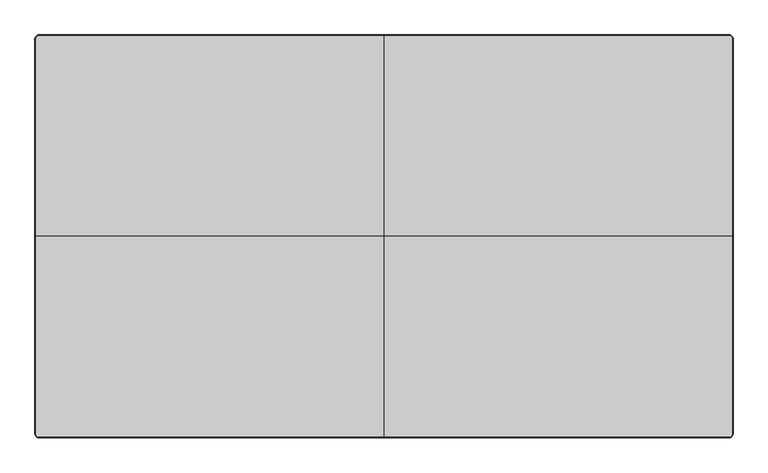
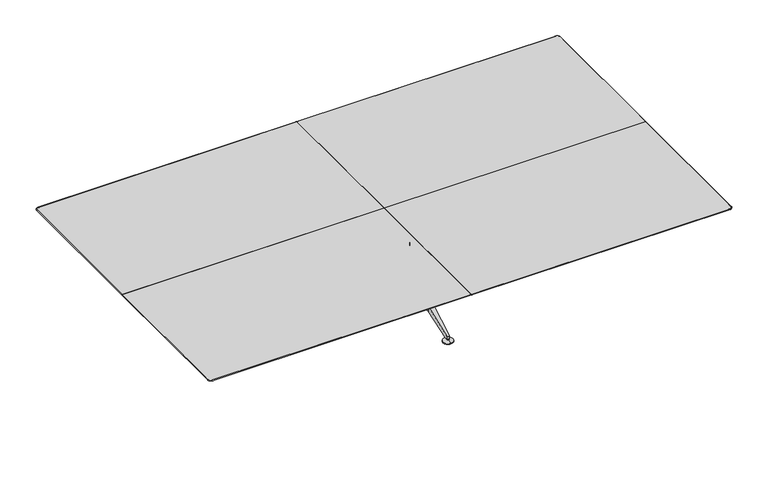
"""IFC4 building model written with IfcOpenShell, lengths in millimetres: furniture geometry, Furniture_Wilkhahn_620-46_Logon Table-Rectangle : Logon 620/46_5200L x 3000W x 730H."""

from ifc_helpers import new_model, si_unit, point, frame, frame_2d, origin, place, context, project, spatial, polyline, circle_curve, ellipse_curve, trimmed, segment, composite_curve, outline, extrude, source, transform, mapped, element, save
from ifc_brep_helpers import plane_surface, cylinder_surface, revolved_surface, advanced_brep


def furniture_d52dea78(model_context):
    return source(origin(), model_context, "Body", "SolidModel", [
        advanced_brep(
        [(0.0, 425.4267924, 0.0), (0.0, 375.4267924, 0.0), (0.0, 475.4267924, 0.0), (0.0, 375.4267924, 6.0), (0.0, 475.4267924, 6.0), (0.0, 412.9511544, 17.0), (0.0, 437.9024304, 17.0), (0.0, 412.9511544, 27.0), (0.0, 437.9024304, 27.0), (0.0, 425.4267924, 27.0)],
        [
            (0, 1),
            (1, 2, circle_curve(frame((0.0, 425.4267924, 0.0), z_axis=(0.0, 0.0, -1.0), x_axis=(0.0, -1.0000000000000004, 0.0)), 50.0)),
            (2, 0),
            (2, 1, circle_curve(frame((0.0, 425.4267924, 0.0), z_axis=(0.0, 0.0, -1.0), x_axis=(0.0, -1.0000000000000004, 0.0)), 50.0)),
            (1, 3),
            (3, 4, circle_curve(frame((0.0, 425.4267924, 6.0), z_axis=(0.0, 0.0, -1.0), x_axis=(0.0, -1.0000000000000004, 0.0)), 50.0)),
            (4, 2),
            (4, 3, circle_curve(frame((0.0, 425.4267924, 6.0), z_axis=(0.0, 0.0, -1.0), x_axis=(0.0, -1.0000000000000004, 0.0)), 50.0)),
            (3, 5),
            (5, 6, circle_curve(frame((0.0, 425.4267924, 17.0), z_axis=(0.0, 0.0, -1.0), x_axis=(0.0, -1.0000000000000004, 0.0)), 12.475638)),
            (6, 4),
            (6, 5, circle_curve(frame((0.0, 425.4267924, 17.0), z_axis=(0.0, 0.0, -1.0), x_axis=(0.0, -1.0000000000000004, 0.0)), 12.475638)),
            (5, 7),
            (7, 8, circle_curve(frame((0.0, 425.4267924, 27.0), z_axis=(0.0, 0.0, -1.0), x_axis=(0.0, -1.0000000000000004, 0.0)), 12.475638)),
            (8, 6),
            (8, 7, circle_curve(frame((0.0, 425.4267924, 27.0), z_axis=(0.0, 0.0, -1.0), x_axis=(0.0, -1.0000000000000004, 0.0)), 12.475638)),
            (7, 9),
            (9, 8),
        ],
        [
            plane_surface(frame((0.0, 425.4267924, 0.0), z_axis=(0.0, 0.0, -1.0), x_axis=(0.0, -1.0, 0.0))),
            cylinder_surface(frame((0.0, 425.4267924, 27.0), z_axis=(0.0, 0.0, -1.0), x_axis=(0.0, -1.0000000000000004, 0.0)), 50.0),
            revolved_surface(polyline([(0.0, 412.9511544, 17.0), (0.0, 375.4267924, 6.0)]), (0.0, 425.4267924, 27.0), (0.0, 0.0, -1.0)),
            cylinder_surface(frame((0.0, 425.4267924, 27.0), z_axis=(0.0, 0.0, -1.0), x_axis=(0.0, -1.0000000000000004, 0.0)), 12.475638),
            plane_surface(frame((0.0, 425.4267924, 27.0), z_axis=(0.0, 0.0, 1.0), x_axis=(0.0, -1.0, 0.0))),
        ],
        [
            (0, [[1, 2, 3]]),
            (0, [[-3, 4, -1]]),
            (1, [[-2, 5, 6, 7]]),
            (1, [[-4, -7, 8, -5]]),
            (2, [[-6, 9, 10, 11]]),
            (2, [[-8, -11, 12, -9]]),
            (3, [[-10, 13, 14, 15]]),
            (3, [[-12, -15, 16, -13]]),
            (4, [[-14, 17, 18]]),
            (4, [[-16, -18, -17]]),
        ],
    ),
        advanced_brep(
        [(0.0, 1076.4755164, 0.0), (0.0, 1176.4755164, 0.0), (0.0, 1126.4755164, 0.0), (0.0, 1076.4755164, 6.0), (0.0, 1176.4755164, 6.0), (0.0, 1113.9998784, 17.0), (0.0, 1138.9511544, 17.0), (0.0, 1113.9998784, 27.0), (0.0, 1138.9511544, 27.0), (0.0, 1126.4755164, 27.0)],
        [
            (0, 1, circle_curve(frame((0.0, 1126.4755164, 0.0), z_axis=(0.0, 0.0, -1.0), x_axis=(0.0, 1.0000000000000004, 0.0)), 50.0)),
            (1, 2),
            (2, 0),
            (1, 0, circle_curve(frame((0.0, 1126.4755164, 0.0), z_axis=(0.0, 0.0, -1.0), x_axis=(0.0, 1.0000000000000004, 0.0)), 50.0)),
            (3, 4, circle_curve(frame((0.0, 1126.4755164, 6.0), z_axis=(0.0, 0.0, -1.0), x_axis=(0.0, 1.0000000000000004, 0.0)), 50.0)),
            (4, 1),
            (0, 3),
            (4, 3, circle_curve(frame((0.0, 1126.4755164, 6.0), z_axis=(0.0, 0.0, -1.0), x_axis=(0.0, 1.0000000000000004, 0.0)), 50.0)),
            (5, 6, circle_curve(frame((0.0, 1126.4755164, 17.0), z_axis=(0.0, 0.0, -1.0), x_axis=(0.0, 1.0000000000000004, 0.0)), 12.475638)),
            (6, 4),
            (3, 5),
            (6, 5, circle_curve(frame((0.0, 1126.4755164, 17.0), z_axis=(0.0, 0.0, -1.0), x_axis=(0.0, 1.0000000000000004, 0.0)), 12.475638)),
            (7, 8, circle_curve(frame((0.0, 1126.4755164, 27.0), z_axis=(0.0, 0.0, -1.0), x_axis=(0.0, 1.0000000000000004, 0.0)), 12.475638)),
            (8, 6),
            (5, 7),
            (8, 7, circle_curve(frame((0.0, 1126.4755164, 27.0), z_axis=(0.0, 0.0, -1.0), x_axis=(0.0, 1.0000000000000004, 0.0)), 12.475638)),
            (9, 8),
            (7, 9),
        ],
        [
            plane_surface(frame((0.0, 1126.4755164, 0.0), z_axis=(0.0, 0.0, -1.0), x_axis=(0.0, 1.0, 0.0))),
            cylinder_surface(frame((0.0, 1126.4755164, 27.0), z_axis=(0.0, 0.0, 1.0), x_axis=(0.0, 1.0000000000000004, 0.0)), 50.0),
            revolved_surface(polyline([(0.0, 1176.4755164, 6.0), (0.0, 1138.9511544, 17.0)]), (0.0, 1126.4755164, 27.0), (0.0, 0.0, 1.0)),
            cylinder_surface(frame((0.0, 1126.4755164, 27.0), z_axis=(0.0, 0.0, 1.0), x_axis=(0.0, 1.0000000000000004, 0.0)), 12.475638),
            plane_surface(frame((0.0, 1126.4755164, 27.0), z_axis=(0.0, 0.0, 1.0), x_axis=(0.0, 1.0, 0.0))),
        ],
        [
            (0, [[1, 2, 3]]),
            (0, [[4, -3, -2]]),
            (1, [[5, 6, -1, 7]]),
            (1, [[8, -7, -4, -6]]),
            (2, [[9, 10, -5, 11]]),
            (2, [[12, -11, -8, -10]]),
            (3, [[13, 14, -9, 15]]),
            (3, [[16, -15, -12, -14]]),
            (4, [[17, -13, 18]]),
            (4, [[-18, -16, -17]]),
        ],
    ),
        extrude(outline(composite_curve([segment(polyline([(25.0, 722.9511544), (51.7160071, 559.8913867)]), True, "CONTINUOUS"), segment(trimmed(circle_curve(frame_2d((39.8739001, 557.9511544)), 12.0), [point((51.7160071, 559.8913867))], [point((39.8739001, 545.9511544))], False, "CARTESIAN"), True, "CONTINUOUS"), segment(polyline([(39.8739001, 545.9511544), (-39.8739001, 545.9511544)]), True, "CONTINUOUS"), segment(trimmed(circle_curve(frame_2d((-39.8739001, 557.9511544)), 12.0), [point((-39.8739001, 545.9511544))], [point((-51.7160071, 559.8913867))], False, "CARTESIAN"), True, "CONTINUOUS"), segment(polyline([(-51.7160071, 559.8913867), (-25.0, 722.9511544), (-25.0, 828.9511544), (-51.7160071, 992.0109222)]), True, "CONTINUOUS"), segment(trimmed(circle_curve(frame_2d((-39.8739001, 993.9511544)), 12.0), [point((-51.7160071, 992.0109222))], [point((-39.8739001, 1005.9511544))], False, "CARTESIAN"), True, "CONTINUOUS"), segment(polyline([(-39.8739001, 1005.9511544), (39.8739001, 1005.9511544)]), True, "CONTINUOUS"), segment(trimmed(circle_curve(frame_2d((39.8739001, 993.9511544)), 12.0), [point((39.8739001, 1005.9511544))], [point((51.7160071, 992.0109222))], False, "CARTESIAN"), True, "CONTINUOUS"), segment(polyline([(51.7160071, 992.0109222), (25.0, 828.9511544), (25.0, 722.9511544)]), True, "CONTINUOUS")], self_intersect=False)), frame((0.0, 0.0, 675.0), z_axis=(0.0, 0.0, 1.0), x_axis=(1.0, 0.0, 0.0)), (0.0, 0.0, 1.0), 29.0),
        advanced_brep(
        [(-25.0, 828.9511544, 140.0), (-25.0, 722.9511544, 140.0), (-25.0, 722.9511544, 195.0), (-25.0, 828.9511544, 195.0), (25.0, 828.9511544, 195.0), (25.0, 722.9511544, 195.0), (25.0, 722.9511544, 140.0), (25.0, 828.9511544, 140.0), (13.4930419, 1113.9998784, 27.0), (-13.4930419, 1113.9998784, 27.0), (-12.9894205, 1126.4755164, 27.0), (0.0, 1138.9511544, 27.0), (12.9894205, 1126.4755164, 27.0), (12.9894205, 1126.4755164, 56.4159205), (0.0, 1138.9511544, 50.6048844), (-12.9894205, 1126.4755164, 56.4159205), (12.9894205, 425.4267924, 56.4159205), (12.9894205, 425.4267924, 27.0), (13.4930419, 437.9024304, 27.0), (-12.9894205, 425.4267924, 27.0), (-12.9894205, 425.4267924, 56.4159205), (-13.4930419, 437.9024304, 27.0), (0.0, 412.9511544, 27.0), (0.0, 412.9511544, 50.6048844)],
        [
            (0, 1),
            (1, 2),
            (2, 3),
            (3, 0),
            (4, 5),
            (5, 6),
            (6, 7),
            (7, 4),
            (8, 9),
            (9, 10),
            (10, 11, circle_curve(frame((0.0, 1125.9511544, 27.0), z_axis=(0.0, 0.0, -1.0), x_axis=(1.0000000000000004, 0.0, 0.0)), 13.0)),
            (11, 12, circle_curve(frame((0.0, 1125.9511544, 27.0), z_axis=(0.0, 0.0, -1.0), x_axis=(1.0000000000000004, 0.0, 0.0)), 13.0)),
            (12, 8),
            (3, 4),
            (4, 13),
            (13, 14, ellipse_curve(frame((0.0, 1125.9511544, 56.6601634), z_axis=(0.0, 0.42223330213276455, 0.9064871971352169), x_axis=(0.0, 0.9064871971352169, -0.42223330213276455)), 14.341074, 13.0)),
            (14, 15, ellipse_curve(frame((0.0, 1125.9511544, 56.6601634), z_axis=(0.0, 0.42223330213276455, 0.9064871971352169), x_axis=(0.0, 0.9064871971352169, -0.42223330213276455)), 14.341074, 13.0)),
            (15, 3),
            (7, 0),
            (0, 9),
            (8, 7),
            (16, 17),
            (17, 18),
            (18, 6),
            (5, 16),
            (19, 20),
            (20, 2),
            (1, 21),
            (21, 19),
            (2, 5),
            (6, 1),
            (19, 22, circle_curve(frame((0.0, 425.9511544, 27.0), z_axis=(0.0, 0.0, 1.0), x_axis=(1.0000000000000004, 0.0, 0.0)), 13.0)),
            (22, 17, circle_curve(frame((0.0, 425.9511544, 27.0), z_axis=(0.0, 0.0, 1.0), x_axis=(1.0000000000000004, 0.0, 0.0)), 13.0)),
            (16, 23, ellipse_curve(frame((0.0, 425.9511544, 56.6601634), z_axis=(0.0, 0.42223330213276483, -0.906487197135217), x_axis=(0.0, -0.906487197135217, -0.42223330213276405)), 14.341074, 13.0)),
            (23, 20, ellipse_curve(frame((0.0, 425.9511544, 56.6601634), z_axis=(0.0, 0.42223330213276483, -0.906487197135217), x_axis=(0.0, -0.906487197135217, -0.42223330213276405)), 14.341074, 13.0)),
            (15, 10),
            (13, 12),
            (21, 18),
        ],
        [
            plane_surface(frame((-25.0, 1122.2046146, 27.0), z_axis=(-1.0, 0.0, 0.0), x_axis=(0.0, -1.0, 0.0))),
            plane_surface(frame((25.0, 1122.2046146, 27.0), z_axis=(1.0, 0.0, 0.0), x_axis=(0.0, 1.0, 0.0))),
            plane_surface(frame((25.0, 1113.9998784, 27.0), z_axis=(0.0, 0.0, -1.0), x_axis=(-1.0, 0.0, 0.0))),
            plane_surface(frame((25.0, 1138.9511544, 50.6048844), z_axis=(0.0, 0.42223330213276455, 0.9064871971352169), x_axis=(-1.0, 0.0, 0.0))),
            plane_surface(frame((25.0, 828.9511544, 140.0), z_axis=(0.0, -0.36852267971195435, -0.9296187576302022), x_axis=(-1.0, 0.0, 0.0))),
            plane_surface(frame((25.0, 722.9511544, 195.0), z_axis=(0.9991861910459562, -0.04033553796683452, 0.0), x_axis=(0.0, 0.0, -1.0))),
            plane_surface(frame((-12.9894205, 425.4267924, 195.0), z_axis=(-0.9991861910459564, -0.0403355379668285, 0.0), x_axis=(0.0, 0.0, -1.0))),
            plane_surface(frame((25.0, 828.9511544, 195.0), z_axis=(0.0, 0.0, 1.0), x_axis=(-1.0, 0.0, 0.0))),
            plane_surface(frame((25.0, 722.9511544, 140.0), z_axis=(0.0, 0.0, -1.0), x_axis=(-1.0, 0.0, 0.0))),
            cylinder_surface(frame((0.0, 425.9511544, 0.0), z_axis=(0.0, 0.0, -1.0), x_axis=(1.0000000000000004, 0.0, 0.0)), 13.0),
            plane_surface(frame((-25.0, 828.9511544, 195.0), z_axis=(-0.9991861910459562, 0.040335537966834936, 0.0), x_axis=(0.0, 0.0, -1.0))),
            cylinder_surface(frame((0.0, 1125.9511544, -14.190167), z_axis=(0.0, 0.0, -1.0), x_axis=(1.0000000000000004, 0.0, 0.0)), 13.0),
            plane_surface(frame((12.9894205, 1126.4755164, 195.0), z_axis=(0.9991861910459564, 0.04033553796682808, 0.0), x_axis=(0.0, 0.0, -1.0))),
            plane_surface(frame((25.0, 722.9511544, 195.0), z_axis=(0.0, -0.4222333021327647, 0.9064871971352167), x_axis=(-1.0, 0.0, 0.0))),
            plane_surface(frame((25.0, 412.9511544, 27.0), z_axis=(0.0, 0.0, -1.0), x_axis=(-1.0, 0.0, 0.0))),
            plane_surface(frame((25.0, 437.9024304, 27.0), z_axis=(0.0, 0.36852267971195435, -0.929618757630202), x_axis=(-1.0, 0.0, 0.0))),
        ],
        [
            (0, [[1, 2, 3, 4]]),
            (1, [[5, 6, 7, 8]]),
            (2, [[9, 10, 11, 12, 13]]),
            (3, [[14, 15, 16, 17, 18]]),
            (4, [[19, 20, -9, 21]]),
            (5, [[22, 23, 24, -6, 25]]),
            (6, [[26, 27, -2, 28, 29]]),
            (7, [[-3, 30, -5, -14]]),
            (8, [[-1, -19, -7, 31]]),
            (9, [[-26, 32, 33, -22, 34, 35]]),
            (10, [[36, -10, -20, -4, -18]]),
            (11, [[-36, -17, -16, 37, -12, -11]]),
            (12, [[-37, -15, -8, -21, -13]]),
            (13, [[-30, -27, -35, -34, -25]]),
            (14, [[38, -23, -33, -32, -29]]),
            (15, [[-31, -24, -38, -28]]),
        ],
    ),
        extrude(outline(composite_curve([segment(trimmed(circle_curve(frame_2d((0.0, 722.9511544)), 20.0), [point((-20.0, 722.9511544))], [point((20.0, 722.9511544))], False, "CARTESIAN"), True, "CONTINUOUS"), segment(trimmed(circle_curve(frame_2d((0.0, 722.9511544)), 20.0), [point((20.0, 722.9511544))], [point((-20.0, 722.9511544))], False, "CARTESIAN"), True, "CONTINUOUS")], self_intersect=False)), frame((0.0, 0.0, 140.0), z_axis=(0.0, 0.0, 1.0), x_axis=(1.0, 0.0, 0.0)), (0.0, 0.0, 1.0), 535.0),
        extrude(outline(composite_curve([segment(trimmed(circle_curve(frame_2d((0.0, 828.9511544)), 20.0), [point((-20.0, 828.9511544))], [point((20.0, 828.9511544))], False, "CARTESIAN"), True, "CONTINUOUS"), segment(trimmed(circle_curve(frame_2d((0.0, 828.9511544)), 20.0), [point((20.0, 828.9511544))], [point((-20.0, 828.9511544))], False, "CARTESIAN"), True, "CONTINUOUS")], self_intersect=False)), frame((0.0, 0.0, 140.0), z_axis=(0.0, 0.0, 1.0), x_axis=(1.0, 0.0, 0.0)), (0.0, 0.0, 1.0), 535.0),
        advanced_brep(
        [(0.0, -373.5244836, 0.0), (0.0, -423.5244836, 0.0), (0.0, -323.5244836, 0.0), (0.0, -423.5244836, 6.0), (0.0, -323.5244836, 6.0), (0.0, -386.0001216, 17.0), (0.0, -361.0488456, 17.0), (0.0, -386.0001216, 27.0), (0.0, -361.0488456, 27.0), (0.0, -373.5244836, 27.0)],
        [
            (0, 1),
            (1, 2, circle_curve(frame((0.0, -373.5244836, 0.0), z_axis=(0.0, 0.0, -1.0), x_axis=(0.0, 1.0000000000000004, 0.0)), 50.0)),
            (2, 0),
            (2, 1, circle_curve(frame((0.0, -373.5244836, 0.0), z_axis=(0.0, 0.0, -1.0), x_axis=(0.0, 1.0000000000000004, 0.0)), 50.0)),
            (1, 3),
            (3, 4, circle_curve(frame((0.0, -373.5244836, 6.0), z_axis=(0.0, 0.0, -1.0), x_axis=(0.0, 1.0000000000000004, 0.0)), 50.0)),
            (4, 2),
            (4, 3, circle_curve(frame((0.0, -373.5244836, 6.0), z_axis=(0.0, 0.0, -1.0), x_axis=(0.0, 1.0000000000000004, 0.0)), 50.0)),
            (3, 5),
            (5, 6, circle_curve(frame((0.0, -373.5244836, 17.0), z_axis=(0.0, 0.0, -1.0), x_axis=(0.0, 1.0000000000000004, 0.0)), 12.475638)),
            (6, 4),
            (6, 5, circle_curve(frame((0.0, -373.5244836, 17.0), z_axis=(0.0, 0.0, -1.0), x_axis=(0.0, 1.0000000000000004, 0.0)), 12.475638)),
            (5, 7),
            (7, 8, circle_curve(frame((0.0, -373.5244836, 27.0), z_axis=(0.0, 0.0, -1.0), x_axis=(0.0, 1.0000000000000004, 0.0)), 12.475638)),
            (8, 6),
            (8, 7, circle_curve(frame((0.0, -373.5244836, 27.0), z_axis=(0.0, 0.0, -1.0), x_axis=(0.0, 1.0000000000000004, 0.0)), 12.475638)),
            (7, 9),
            (9, 8),
        ],
        [
            plane_surface(frame((0.0, -373.5244836, 0.0), z_axis=(0.0, 0.0, -1.0), x_axis=(0.0, 1.0, 0.0))),
            cylinder_surface(frame((0.0, -373.5244836, 27.0), z_axis=(0.0, 0.0, -1.0), x_axis=(0.0, 1.0000000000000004, 0.0)), 50.0),
            revolved_surface(polyline([(0.0, -361.0488456, 17.0), (0.0, -323.5244836, 6.0)]), (0.0, -373.5244836, 27.0), (0.0, 0.0, -1.0)),
            cylinder_surface(frame((0.0, -373.5244836, 27.0), z_axis=(0.0, 0.0, -1.0), x_axis=(0.0, 1.0000000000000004, 0.0)), 12.475638),
            plane_surface(frame((0.0, -373.5244836, 27.0), z_axis=(0.0, 0.0, 1.0), x_axis=(0.0, 1.0, 0.0))),
        ],
        [
            (0, [[1, 2, 3]]),
            (0, [[-3, 4, -1]]),
            (1, [[5, 6, 7, -2]]),
            (1, [[-7, 8, -5, -4]]),
            (2, [[9, 10, 11, -6]]),
            (2, [[-11, 12, -9, -8]]),
            (3, [[13, 14, 15, -10]]),
            (3, [[-15, 16, -13, -12]]),
            (4, [[17, 18, -14]]),
            (4, [[-18, -17, -16]]),
        ],
    ),
        advanced_brep(
        [(0.0, -1024.5732076, 0.0), (0.0, -1074.5732076, 0.0), (0.0, -1124.5732076, 0.0), (0.0, -1024.5732076, 6.0), (0.0, -1124.5732076, 6.0), (0.0, -1062.0975696, 17.0), (0.0, -1087.0488456, 17.0), (0.0, -1062.0975696, 27.0), (0.0, -1087.0488456, 27.0), (0.0, -1074.5732076, 27.0)],
        [
            (0, 1),
            (1, 2),
            (2, 0, circle_curve(frame((0.0, -1074.5732076, 0.0), z_axis=(0.0, 0.0, -1.0), x_axis=(0.0, -1.0000000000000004, 0.0)), 50.0)),
            (0, 2, circle_curve(frame((0.0, -1074.5732076, 0.0), z_axis=(0.0, 0.0, -1.0), x_axis=(0.0, -1.0000000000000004, 0.0)), 50.0)),
            (3, 0),
            (2, 4),
            (4, 3, circle_curve(frame((0.0, -1074.5732076, 6.0), z_axis=(0.0, 0.0, -1.0), x_axis=(0.0, -1.0000000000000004, 0.0)), 50.0)),
            (3, 4, circle_curve(frame((0.0, -1074.5732076, 6.0), z_axis=(0.0, 0.0, -1.0), x_axis=(0.0, -1.0000000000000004, 0.0)), 50.0)),
            (5, 3),
            (4, 6),
            (6, 5, circle_curve(frame((0.0, -1074.5732076, 17.0), z_axis=(0.0, 0.0, -1.0), x_axis=(0.0, -1.0000000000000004, 0.0)), 12.475638)),
            (5, 6, circle_curve(frame((0.0, -1074.5732076, 17.0), z_axis=(0.0, 0.0, -1.0), x_axis=(0.0, -1.0000000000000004, 0.0)), 12.475638)),
            (7, 5),
            (6, 8),
            (8, 7, circle_curve(frame((0.0, -1074.5732076, 27.0), z_axis=(0.0, 0.0, -1.0), x_axis=(0.0, -1.0000000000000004, 0.0)), 12.475638)),
            (7, 8, circle_curve(frame((0.0, -1074.5732076, 27.0), z_axis=(0.0, 0.0, -1.0), x_axis=(0.0, -1.0000000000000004, 0.0)), 12.475638)),
            (9, 7),
            (8, 9),
        ],
        [
            plane_surface(frame((0.0, -1074.5732076, 0.0), z_axis=(0.0, 0.0, -1.0), x_axis=(0.0, -1.0, 0.0))),
            cylinder_surface(frame((0.0, -1074.5732076, 27.0), z_axis=(0.0, 0.0, 1.0), x_axis=(0.0, -1.0000000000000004, 0.0)), 50.0),
            revolved_surface(polyline([(0.0, -1124.5732076, 6.0), (0.0, -1087.0488456, 17.0)]), (0.0, -1074.5732076, 27.0), (0.0, 0.0, 1.0)),
            cylinder_surface(frame((0.0, -1074.5732076, 27.0), z_axis=(0.0, 0.0, 1.0), x_axis=(0.0, -1.0000000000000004, 0.0)), 12.475638),
            plane_surface(frame((0.0, -1074.5732076, 27.0), z_axis=(0.0, 0.0, 1.0), x_axis=(0.0, -1.0, 0.0))),
        ],
        [
            (0, [[1, 2, 3]]),
            (0, [[-2, -1, 4]]),
            (1, [[5, -3, 6, 7]]),
            (1, [[-6, -4, -5, 8]]),
            (2, [[9, -7, 10, 11]]),
            (2, [[-10, -8, -9, 12]]),
            (3, [[13, -11, 14, 15]]),
            (3, [[-14, -12, -13, 16]]),
            (4, [[17, -15, 18]]),
            (4, [[-18, -16, -17]]),
        ],
    ),
        extrude(outline(composite_curve([segment(polyline([(25.0, -671.0488456), (25.0, -777.0488456), (51.7160071, -940.1086133)]), True, "CONTINUOUS"), segment(trimmed(circle_curve(frame_2d((39.8739001, -942.0488456)), 12.0), [point((51.7160071, -940.1086133))], [point((39.8739001, -954.0488456))], False, "CARTESIAN"), True, "CONTINUOUS"), segment(polyline([(39.8739001, -954.0488456), (-39.8739001, -954.0488456)]), True, "CONTINUOUS"), segment(trimmed(circle_curve(frame_2d((-39.8739001, -942.0488456)), 12.0), [point((-39.8739001, -954.0488456))], [point((-51.7160071, -940.1086133))], False, "CARTESIAN"), True, "CONTINUOUS"), segment(polyline([(-51.7160071, -940.1086133), (-25.0, -777.0488456), (-25.0, -671.0488456), (-51.7160071, -507.9890778)]), True, "CONTINUOUS"), segment(trimmed(circle_curve(frame_2d((-39.8739001, -506.0488456)), 12.0), [point((-51.7160071, -507.9890778))], [point((-39.8739001, -494.0488456))], False, "CARTESIAN"), True, "CONTINUOUS"), segment(polyline([(-39.8739001, -494.0488456), (39.8739001, -494.0488456)]), True, "CONTINUOUS"), segment(trimmed(circle_curve(frame_2d((39.8739001, -506.0488456)), 12.0), [point((39.8739001, -494.0488456))], [point((51.7160071, -507.9890778))], False, "CARTESIAN"), True, "CONTINUOUS"), segment(polyline([(51.7160071, -507.9890778), (25.0, -671.0488456)]), True, "CONTINUOUS")], self_intersect=False)), frame((0.0, 0.0, 675.0), z_axis=(0.0, 0.0, 1.0), x_axis=(1.0, 0.0, 0.0)), (0.0, 0.0, 1.0), 29.0),
        advanced_brep(
        [(-25.0, -777.0488456, 140.0), (-25.0, -777.0488456, 195.0), (-25.0, -671.0488456, 195.0), (-25.0, -671.0488456, 140.0), (25.0, -777.0488456, 195.0), (25.0, -777.0488456, 140.0), (25.0, -671.0488456, 140.0), (25.0, -671.0488456, 195.0), (13.4930419, -1062.0975696, 27.0), (12.9894205, -1074.5732076, 27.0), (0.0, -1087.0488456, 27.0), (-12.9894205, -1074.5732076, 27.0), (-13.4930419, -1062.0975696, 27.0), (-12.9894205, -1074.5732076, 56.4159205), (0.0, -1087.0488456, 50.6048844), (12.9894205, -1074.5732076, 56.4159205), (12.9894205, -373.5244836, 56.4159205), (13.4930419, -386.0001216, 27.0), (12.9894205, -373.5244836, 27.0), (-12.9894205, -373.5244836, 27.0), (-13.4930419, -386.0001216, 27.0), (-12.9894205, -373.5244836, 56.4159205), (0.0, -361.0488456, 50.6048844), (0.0, -361.0488456, 27.0)],
        [
            (0, 1),
            (1, 2),
            (2, 3),
            (3, 0),
            (4, 5),
            (5, 6),
            (6, 7),
            (7, 4),
            (8, 9),
            (9, 10, circle_curve(frame((0.0, -1074.0488456, 27.0), z_axis=(0.0, 0.0, -1.0), x_axis=(1.0000000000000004, 0.0, 0.0)), 13.0)),
            (10, 11, circle_curve(frame((0.0, -1074.0488456, 27.0), z_axis=(0.0, 0.0, -1.0), x_axis=(1.0000000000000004, 0.0, 0.0)), 13.0)),
            (11, 12),
            (12, 8),
            (1, 13),
            (13, 14, ellipse_curve(frame((0.0, -1074.0488456, 56.6601634), z_axis=(0.0, -0.42223330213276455, 0.9064871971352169), x_axis=(0.0, -0.9064871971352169, -0.42223330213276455)), 14.341074, 13.0)),
            (14, 15, ellipse_curve(frame((0.0, -1074.0488456, 56.6601634), z_axis=(0.0, -0.42223330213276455, 0.9064871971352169), x_axis=(0.0, -0.9064871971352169, -0.42223330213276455)), 14.341074, 13.0)),
            (15, 4),
            (4, 1),
            (5, 8),
            (12, 0),
            (0, 5),
            (16, 7),
            (6, 17),
            (17, 18),
            (18, 16),
            (19, 20),
            (20, 3),
            (2, 21),
            (21, 19),
            (7, 2),
            (3, 6),
            (21, 22, ellipse_curve(frame((0.0, -374.0488456, 56.6601634), z_axis=(0.0, -0.42223330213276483, -0.906487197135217), x_axis=(0.0, 0.906487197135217, -0.42223330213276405)), 14.341074, 13.0)),
            (22, 16, ellipse_curve(frame((0.0, -374.0488456, 56.6601634), z_axis=(0.0, -0.42223330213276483, -0.906487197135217), x_axis=(0.0, 0.906487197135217, -0.42223330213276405)), 14.341074, 13.0)),
            (18, 23, circle_curve(frame((0.0, -374.0488456, 27.0), z_axis=(0.0, 0.0, 1.0), x_axis=(1.0000000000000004, 0.0, 0.0)), 13.0)),
            (23, 19, circle_curve(frame((0.0, -374.0488456, 27.0), z_axis=(0.0, 0.0, 1.0), x_axis=(1.0000000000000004, 0.0, 0.0)), 13.0)),
            (11, 13),
            (9, 15),
            (17, 20),
        ],
        [
            plane_surface(frame((-25.0, -1070.3023057, 27.0), z_axis=(-1.0, 0.0, 0.0), x_axis=(0.0, 1.0, 0.0))),
            plane_surface(frame((25.0, -1070.3023057, 27.0), z_axis=(1.0, 0.0, 0.0), x_axis=(0.0, -1.0, 0.0))),
            plane_surface(frame((25.0, -1062.0975696, 27.0), z_axis=(0.0, 0.0, -1.0), x_axis=(-1.0, 0.0, 0.0))),
            plane_surface(frame((25.0, -1087.0488456, 50.6048844), z_axis=(0.0, -0.42223330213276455, 0.9064871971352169), x_axis=(-1.0, 0.0, 0.0))),
            plane_surface(frame((25.0, -777.0488456, 140.0), z_axis=(0.0, 0.36852267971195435, -0.9296187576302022), x_axis=(-1.0, 0.0, 0.0))),
            plane_surface(frame((25.0, -671.0488456, 195.0), z_axis=(0.9991861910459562, 0.04033553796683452, 0.0), x_axis=(0.0, 0.0, -1.0))),
            plane_surface(frame((-12.9894205, -373.5244836, 195.0), z_axis=(-0.9991861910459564, 0.0403355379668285, 0.0), x_axis=(0.0, 0.0, -1.0))),
            plane_surface(frame((25.0, -777.0488456, 195.0), z_axis=(0.0, 0.0, 1.0), x_axis=(-1.0, 0.0, 0.0))),
            plane_surface(frame((25.0, -671.0488456, 140.0), z_axis=(0.0, 0.0, -1.0), x_axis=(-1.0, 0.0, 0.0))),
            cylinder_surface(frame((0.0, -374.0488456, 0.0), z_axis=(0.0, 0.0, -1.0), x_axis=(1.0000000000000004, 0.0, 0.0)), 13.0),
            plane_surface(frame((-25.0, -777.0488456, 195.0), z_axis=(-0.9991861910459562, -0.040335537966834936, 0.0), x_axis=(0.0, 0.0, -1.0))),
            cylinder_surface(frame((0.0, -1074.0488456, -14.190167), z_axis=(0.0, 0.0, -1.0), x_axis=(1.0000000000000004, 0.0, 0.0)), 13.0),
            plane_surface(frame((12.9894205, -1074.5732076, 195.0), z_axis=(0.9991861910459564, -0.04033553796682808, 0.0), x_axis=(0.0, 0.0, -1.0))),
            plane_surface(frame((25.0, -671.0488456, 195.0), z_axis=(0.0, 0.4222333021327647, 0.9064871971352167), x_axis=(-1.0, 0.0, 0.0))),
            plane_surface(frame((25.0, -361.0488456, 27.0), z_axis=(0.0, 0.0, -1.0), x_axis=(-1.0, 0.0, 0.0))),
            plane_surface(frame((25.0, -386.0001216, 27.0), z_axis=(0.0, -0.36852267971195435, -0.929618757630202), x_axis=(-1.0, 0.0, 0.0))),
        ],
        [
            (0, [[1, 2, 3, 4]]),
            (1, [[5, 6, 7, 8]]),
            (2, [[9, 10, 11, 12, 13]]),
            (3, [[14, 15, 16, 17, 18]]),
            (4, [[19, -13, 20, 21]]),
            (5, [[22, -7, 23, 24, 25]]),
            (6, [[26, 27, -3, 28, 29]]),
            (7, [[-18, -8, 30, -2]]),
            (8, [[31, -6, -21, -4]]),
            (9, [[32, 33, -25, 34, 35, -29]]),
            (10, [[-14, -1, -20, -12, 36]]),
            (11, [[-11, -10, 37, -16, -15, -36]]),
            (12, [[-9, -19, -5, -17, -37]]),
            (13, [[-22, -33, -32, -28, -30]]),
            (14, [[-26, -35, -34, -24, 38]]),
            (15, [[-27, -38, -23, -31]]),
        ],
    ),
        extrude(outline(composite_curve([segment(trimmed(circle_curve(frame_2d((0.0, -671.0488456)), 20.0), [point((-20.0, -671.0488456))], [point((20.0, -671.0488456))], False, "CARTESIAN"), True, "CONTINUOUS"), segment(trimmed(circle_curve(frame_2d((0.0, -671.0488456)), 20.0), [point((20.0, -671.0488456))], [point((-20.0, -671.0488456))], False, "CARTESIAN"), True, "CONTINUOUS")], self_intersect=False)), frame((0.0, 0.0, 140.0), z_axis=(0.0, 0.0, 1.0), x_axis=(1.0, 0.0, 0.0)), (0.0, 0.0, 1.0), 535.0),
        extrude(outline(composite_curve([segment(trimmed(circle_curve(frame_2d((0.0, -777.0488456)), 20.0), [point((-20.0, -777.0488456))], [point((20.0, -777.0488456))], False, "CARTESIAN"), True, "CONTINUOUS"), segment(trimmed(circle_curve(frame_2d((0.0, -777.0488456)), 20.0), [point((20.0, -777.0488456))], [point((-20.0, -777.0488456))], False, "CARTESIAN"), True, "CONTINUOUS")], self_intersect=False)), frame((0.0, 0.0, 140.0), z_axis=(0.0, 0.0, 1.0), x_axis=(1.0, 0.0, 0.0)), (0.0, 0.0, 1.0), 535.0),
        advanced_brep(
        [(0.0, -1470.4570299, 730.0), (2569.5, -1470.4570299, 730.0), (2596.4081843, -1443.5488456, 730.0), (2596.4081843, 25.9511544, 730.0), (0.0, 25.9511544, 730.0), (0.0, -1444.7199471, 703.9999792), (0.0, 25.9511544, 703.9999792), (2570.6711015, 25.9511544, 703.9999792), (2570.6711015, -1443.5488456, 703.9999792), (2569.5, -1444.7199471, 703.9999792), (2598.4689097, 25.9511544, 723.4642141), (0.0, -1472.5177553, 723.4642141), (2569.5, -1472.5177553, 723.4642141), (2598.4689097, -1443.5488456, 723.4642141)],
        [
            (0, 1),
            (1, 2, circle_curve(frame((2569.5, -1443.5488456, 730.0), z_axis=(0.0, 0.0, 1.0), x_axis=(0.0, -1.0, 0.0)), 26.9081843)),
            (2, 3),
            (3, 4),
            (4, 0),
            (5, 6),
            (6, 7),
            (7, 8),
            (8, 9, circle_curve(frame((2569.5, -1443.5488456, 703.9999792), z_axis=(0.0, 0.0, -1.0), x_axis=(0.0, -1.0, 0.0)), 1.1711015)),
            (9, 5),
            (3, 10, circle_curve(frame((2596.4081843, 25.9511544, 726.4072349), z_axis=(0.0, 1.0, 0.0), x_axis=(-1.0, 0.0, 0.0)), 3.5927651)),
            (10, 7),
            (6, 4),
            (5, 11),
            (11, 0, circle_curve(frame((0.0, -1470.4570299, 726.4072349), z_axis=(-1.0, 0.0, 0.0), x_axis=(0.0, 1.0, 0.0)), 3.5927651)),
            (9, 12),
            (12, 11),
            (12, 1, circle_curve(frame((2569.5, -1470.4570299, 726.4072349), z_axis=(-1.0, 0.0, 0.0), x_axis=(0.0, 1.0, 0.0)), 3.5927651)),
            (8, 13),
            (13, 12, circle_curve(frame((2569.5, -1443.5488456, 723.4642141), z_axis=(0.0, 0.0, -1.0), x_axis=(0.0, -1.0, 0.0)), 28.9689097)),
            (13, 2, circle_curve(frame((2596.4081843, -1443.5488456, 726.4072349), z_axis=(0.0, -1.0, 0.0), x_axis=(-1.0, 0.0, 0.0)), 3.5927651)),
            (10, 13),
        ],
        [
            plane_surface(frame((2569.5, -1444.7199471, 730.0), z_axis=(0.0, 0.0, 1.0), x_axis=(1.0, 0.0, 0.0))),
            plane_surface(frame((2569.5, -1444.7199471, 703.9999792), z_axis=(0.0, 0.0, -1.0), x_axis=(-1.0, 0.0, 0.0))),
            plane_surface(frame((2570.6711015, 25.9511544, 730.0), z_axis=(0.0, 1.0, 0.0), x_axis=(0.0, 0.0, -1.0))),
            plane_surface(frame((0.0, 25.9511544, 730.0), z_axis=(-1.0, 0.0, 0.0), x_axis=(0.0, 0.0, -1.0))),
            plane_surface(frame((0.0, -1444.7199471, 703.9999792), z_axis=(0.0, -0.5735764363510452, -0.8191520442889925), x_axis=(1.0, 0.0, 0.0))),
            cylinder_surface(frame((0.0, -1470.4570299, 726.4072349), z_axis=(-1.0, 0.0, 0.0), x_axis=(0.0, 1.0, 0.0)), 3.5927651),
            revolved_surface(polyline([(2569.5, -1444.7199471, 703.9999792), (2569.5, -1472.5177553, 723.4642141)]), (2569.5, -1443.5488456, 730.0), (0.0, 0.0, 1.0)),
            revolved_surface(trimmed(ellipse_curve(frame((2569.5, -1470.4570299, 726.4072349), z_axis=(-1.0, 0.0, 0.0), x_axis=(0.0, 1.0, 0.0)), 3.5927651, 3.5927651), [point((2569.5, -1472.5177553, 723.4642141))], [point((2569.5, -1470.4570299, 730.0))], True, "CARTESIAN"), (2569.5, -1443.5488456, 730.0), (0.0, 0.0, 1.0)),
            plane_surface(frame((2570.6711015, -1443.5488456, 703.9999792), z_axis=(0.5735764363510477, 0.0, -0.8191520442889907), x_axis=(0.0, 1.0, 0.0))),
            cylinder_surface(frame((2596.4081843, -1443.5488456, 726.4072349), z_axis=(0.0, -1.0, 0.0), x_axis=(-1.0, 0.0, 0.0)), 3.5927651),
        ],
        [
            (0, [[1, 2, 3, 4, 5]]),
            (1, [[6, 7, 8, 9, 10]]),
            (2, [[-4, 11, 12, -7, 13]]),
            (3, [[-5, -13, -6, 14, 15]]),
            (4, [[-14, -10, 16, 17]]),
            (5, [[-15, -17, 18, -1]]),
            (6, [[-16, -9, 19, 20]]),
            (7, [[-2, -18, -20, 21]]),
            (8, [[-12, 22, -19, -8]]),
            (9, [[-11, -3, -21, -22]]),
        ],
    ),
        advanced_brep(
        [(2596.4081843, 25.9511544, 730.0), (2596.4081843, 1495.4511544, 730.0), (2569.5, 1522.3593387, 730.0), (0.0, 1522.3593387, 730.0), (0.0, 25.9511544, 730.0), (2570.6711015, 25.9511544, 703.9999792), (0.0, 25.9511544, 703.9999792), (0.0, 1496.6222559, 703.9999792), (2569.5, 1496.6222559, 703.9999792), (2570.6711015, 1495.4511544, 703.9999792), (2598.4689097, 25.9511544, 723.4642141), (0.0, 1524.4200641, 723.4642141), (2569.5, 1524.4200641, 723.4642141), (2598.4689097, 1495.4511544, 723.4642141)],
        [
            (0, 1),
            (1, 2, circle_curve(frame((2569.5, 1495.4511544, 730.0), z_axis=(0.0, 0.0, 1.0), x_axis=(0.0, 1.0, 0.0)), 26.9081843)),
            (2, 3),
            (3, 4),
            (4, 0),
            (5, 6),
            (6, 7),
            (7, 8),
            (8, 9, circle_curve(frame((2569.5, 1495.4511544, 703.9999792), z_axis=(0.0, 0.0, -1.0), x_axis=(0.0, 1.0, 0.0)), 1.1711015)),
            (9, 5),
            (4, 6),
            (5, 10),
            (10, 0, circle_curve(frame((2596.4081843, 25.9511544, 726.4072349), z_axis=(0.0, -1.0, 0.0), x_axis=(1.0, 0.0, 0.0)), 3.5927651)),
            (3, 11, circle_curve(frame((0.0, 1522.3593387, 726.4072349), z_axis=(-1.0, 0.0, 0.0), x_axis=(0.0, 1.0, 0.0)), 3.5927651)),
            (11, 7),
            (11, 12),
            (12, 8),
            (2, 12, circle_curve(frame((2569.5, 1522.3593387, 726.4072349), z_axis=(-1.0, 0.0, 0.0), x_axis=(0.0, 1.0, 0.0)), 3.5927651)),
            (12, 13, circle_curve(frame((2569.5, 1495.4511544, 723.4642141), z_axis=(0.0, 0.0, -1.0), x_axis=(0.0, 1.0, 0.0)), 28.9689097)),
            (13, 9),
            (1, 13, circle_curve(frame((2596.4081843, 1495.4511544, 726.4072349), z_axis=(0.0, 1.0, 0.0), x_axis=(1.0, 0.0, 0.0)), 3.5927651)),
            (13, 10),
        ],
        [
            plane_surface(frame((0.0, 1496.6222559, 730.0), z_axis=(0.0, 0.0, 1.0), x_axis=(-1.0, 0.0, 0.0))),
            plane_surface(frame((0.0, 1496.6222559, 703.9999792), z_axis=(0.0, 0.0, -1.0), x_axis=(1.0, 0.0, 0.0))),
            plane_surface(frame((0.0, 25.9511544, 730.0), z_axis=(0.0, -1.0, 0.0), x_axis=(0.0, 0.0, -1.0))),
            plane_surface(frame((0.0, 1496.6222559, 730.0), z_axis=(-1.0, 0.0, 0.0), x_axis=(0.0, 0.0, -1.0))),
            plane_surface(frame((0.0, 1524.4200641, 723.4642141), z_axis=(0.0, 0.5735764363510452, -0.8191520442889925), x_axis=(1.0, 0.0, 0.0))),
            cylinder_surface(frame((0.0, 1522.3593387, 726.4072349), z_axis=(-1.0, 0.0, 0.0), x_axis=(0.0, 1.0, 0.0)), 3.5927651),
            revolved_surface(polyline([(2569.5, 1524.4200641, 723.4642141), (2569.5, 1496.6222559, 703.9999792)]), (2569.5, 1495.4511544, 730.0), (0.0, 0.0, -1.0)),
            revolved_surface(trimmed(ellipse_curve(frame((2569.5, 1522.3593387, 726.4072349), z_axis=(-1.0, 0.0, 0.0), x_axis=(0.0, 1.0, 0.0)), 3.5927651, 3.5927651), [point((2569.5, 1522.3593387, 730.0))], [point((2569.5, 1524.4200641, 723.4642141))], True, "CARTESIAN"), (2569.5, 1495.4511544, 730.0), (0.0, 0.0, -1.0)),
            plane_surface(frame((2598.4689097, 1495.4511544, 723.4642141), z_axis=(0.5735764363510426, 0.0, -0.8191520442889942), x_axis=(0.0, -1.0, 0.0))),
            cylinder_surface(frame((2596.4081843, 1495.4511544, 726.4072349), z_axis=(0.0, 1.0, 0.0), x_axis=(1.0, 0.0, 0.0)), 3.5927651),
        ],
        [
            (0, [[1, 2, 3, 4, 5]]),
            (1, [[6, 7, 8, 9, 10]]),
            (2, [[-5, 11, -6, 12, 13]]),
            (3, [[-4, 14, 15, -7, -11]]),
            (4, [[-15, 16, 17, -8]]),
            (5, [[-14, -3, 18, -16]]),
            (6, [[-17, 19, 20, -9]]),
            (7, [[-2, 21, -19, -18]]),
            (8, [[-12, -10, -20, 22]]),
            (9, [[-13, -22, -21, -1]]),
        ],
    ),
        advanced_brep(
        [(-2596.4081843, 25.9511544, 730.0), (-2596.4081843, -1443.5488456, 730.0), (-2569.5, -1470.4570299, 730.0), (0.0, -1470.4570299, 730.0), (0.0, 25.9511544, 730.0), (-2570.6711015, 25.9511544, 703.9999792), (0.0, 25.9511544, 703.9999792), (0.0, -1444.7199471, 703.9999792), (-2569.5, -1444.7199471, 703.9999792), (-2570.6711015, -1443.5488456, 703.9999792), (-2598.4689097, 25.9511544, 723.4642141), (0.0, -1472.5177553, 723.4642141), (-2569.5, -1472.5177553, 723.4642141), (-2598.4689097, -1443.5488456, 723.4642141)],
        [
            (0, 1),
            (1, 2, circle_curve(frame((-2569.5, -1443.5488456, 730.0), z_axis=(0.0, 0.0, 1.0), x_axis=(0.0, -1.0, 0.0)), 26.9081843)),
            (2, 3),
            (3, 4),
            (4, 0),
            (5, 6),
            (6, 7),
            (7, 8),
            (8, 9, circle_curve(frame((-2569.5, -1443.5488456, 703.9999792), z_axis=(0.0, 0.0, -1.0), x_axis=(0.0, -1.0, 0.0)), 1.1711015)),
            (9, 5),
            (4, 6),
            (5, 10),
            (10, 0, circle_curve(frame((-2596.4081843, 25.9511544, 726.4072349), z_axis=(0.0, 1.0, 0.0), x_axis=(-1.0, 0.0, 0.0)), 3.5927651)),
            (3, 11, circle_curve(frame((0.0, -1470.4570299, 726.4072349), z_axis=(1.0, 0.0, 0.0), x_axis=(0.0, -1.0, 0.0)), 3.5927651)),
            (11, 7),
            (11, 12),
            (12, 8),
            (2, 12, circle_curve(frame((-2569.5, -1470.4570299, 726.4072349), z_axis=(1.0, 0.0, 0.0), x_axis=(0.0, -1.0, 0.0)), 3.5927651)),
            (12, 13, circle_curve(frame((-2569.5, -1443.5488456, 723.4642141), z_axis=(0.0, 0.0, -1.0), x_axis=(0.0, -1.0, 0.0)), 28.9689097)),
            (13, 9),
            (1, 13, circle_curve(frame((-2596.4081843, -1443.5488456, 726.4072349), z_axis=(0.0, -1.0, 0.0), x_axis=(-1.0, 0.0, 0.0)), 3.5927651)),
            (13, 10),
        ],
        [
            plane_surface(frame((0.0, -1444.7199471, 730.0), z_axis=(0.0, 0.0, 1.0), x_axis=(1.0, 0.0, 0.0))),
            plane_surface(frame((0.0, -1444.7199471, 703.9999792), z_axis=(0.0, 0.0, -1.0), x_axis=(-1.0, 0.0, 0.0))),
            plane_surface(frame((0.0, 25.9511544, 730.0), z_axis=(0.0, 1.0, 0.0), x_axis=(0.0, 0.0, -1.0))),
            plane_surface(frame((0.0, -1444.7199471, 730.0), z_axis=(1.0, 0.0, 0.0), x_axis=(0.0, 0.0, -1.0))),
            plane_surface(frame((0.0, -1472.5177553, 723.4642141), z_axis=(0.0, -0.5735764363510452, -0.8191520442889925), x_axis=(-1.0, 0.0, 0.0))),
            cylinder_surface(frame((0.0, -1470.4570299, 726.4072349), z_axis=(1.0, 0.0, 0.0), x_axis=(0.0, -1.0, 0.0)), 3.5927651),
            revolved_surface(polyline([(-2569.5, -1472.5177553, 723.4642141), (-2569.5, -1444.7199471, 703.9999792)]), (-2569.5, -1443.5488456, 730.0), (0.0, 0.0, -1.0)),
            revolved_surface(trimmed(ellipse_curve(frame((-2569.5, -1470.4570299, 726.4072349), z_axis=(1.0, 0.0, 0.0), x_axis=(0.0, -1.0, 0.0)), 3.5927651, 3.5927651), [point((-2569.5, -1470.4570299, 730.0))], [point((-2569.5, -1472.5177553, 723.4642141))], True, "CARTESIAN"), (-2569.5, -1443.5488456, 730.0), (0.0, 0.0, -1.0)),
            plane_surface(frame((-2598.4689097, -1443.5488456, 723.4642141), z_axis=(-0.5735764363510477, 0.0, -0.8191520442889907), x_axis=(0.0, 1.0, 0.0))),
            cylinder_surface(frame((-2596.4081843, -1443.5488456, 726.4072349), z_axis=(0.0, -1.0, 0.0), x_axis=(-1.0, 0.0, 0.0)), 3.5927651),
        ],
        [
            (0, [[1, 2, 3, 4, 5]]),
            (1, [[6, 7, 8, 9, 10]]),
            (2, [[-5, 11, -6, 12, 13]]),
            (3, [[-4, 14, 15, -7, -11]]),
            (4, [[-15, 16, 17, -8]]),
            (5, [[-14, -3, 18, -16]]),
            (6, [[-17, 19, 20, -9]]),
            (7, [[-2, 21, -19, -18]]),
            (8, [[-12, -10, -20, 22]]),
            (9, [[-13, -22, -21, -1]]),
        ],
    ),
        advanced_brep(
        [(0.0, 1524.4200641, 723.4642141), (0.0, 1496.6222559, 703.9999792), (-2569.5, 1496.6222559, 703.9999792), (-2569.5, 1524.4200641, 723.4642141), (0.0, 1522.3593387, 730.0), (-2569.5, 1522.3593387, 730.0), (-2570.6711015, 1495.4511544, 703.9999792), (-2598.4689097, 1495.4511544, 723.4642141), (-2596.4081843, 1495.4511544, 730.0), (-2570.6711015, 25.9511544, 703.9999792), (-2598.4689097, 25.9511544, 723.4642141), (-2596.4081843, 25.9511544, 730.0), (0.0, 25.9511544, 703.9999792), (0.0, 25.9511544, 730.0)],
        [
            (0, 1),
            (1, 2),
            (2, 3),
            (3, 0),
            (4, 0, circle_curve(frame((0.0, 1522.3593387, 726.4072349), z_axis=(-1.0, 0.0, 0.0), x_axis=(0.0, -1.0, 0.0)), 3.5927651)),
            (3, 5, circle_curve(frame((-2569.5, 1522.3593387, 726.4072349), z_axis=(1.0, 0.0, 0.0), x_axis=(0.0, -1.0, 0.0)), 3.5927651)),
            (5, 4),
            (2, 6, circle_curve(frame((-2569.5, 1495.4511544, 703.9999792), z_axis=(0.0, 0.0, 1.0), x_axis=(0.0, 1.0, 0.0)), 1.1711015)),
            (6, 7),
            (7, 3, circle_curve(frame((-2569.5, 1495.4511544, 723.4642141), z_axis=(0.0, 0.0, -1.0), x_axis=(0.0, 1.0, 0.0)), 28.9689097)),
            (8, 5, circle_curve(frame((-2569.5, 1495.4511544, 730.0), z_axis=(0.0, 0.0, -1.0), x_axis=(0.0, 1.0, 0.0)), 26.9081843)),
            (7, 8, circle_curve(frame((-2596.4081843, 1495.4511544, 726.4072349), z_axis=(0.0, 1.0, 0.0), x_axis=(1.0, 0.0, 0.0)), 3.5927651)),
            (9, 10),
            (10, 7),
            (6, 9),
            (10, 11, circle_curve(frame((-2596.4081843, 25.9511544, 726.4072349), z_axis=(0.0, 1.0, 0.0), x_axis=(1.0, 0.0, 0.0)), 3.5927651)),
            (11, 8),
            (1, 12),
            (12, 9),
            (11, 13),
            (13, 4),
            (13, 12),
        ],
        [
            plane_surface(frame((0.0, 1496.6222559, 703.9999792), z_axis=(0.0, 0.5735764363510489, -0.8191520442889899), x_axis=(-1.0, 0.0, 0.0))),
            cylinder_surface(frame((0.0, 1522.3593387, 726.4072349), z_axis=(1.0, 0.0, 0.0), x_axis=(0.0, -1.0, 0.0)), 3.5927651),
            revolved_surface(polyline([(-2569.5, 1496.6222559, 703.9999792), (-2569.5, 1524.4200641, 723.4642141)]), (-2569.5, 1495.4511544, 730.0), (0.0, 0.0, 1.0)),
            revolved_surface(trimmed(ellipse_curve(frame((-2569.5, 1522.3593387, 726.4072349), z_axis=(1.0, 0.0, 0.0), x_axis=(0.0, -1.0, 0.0)), 3.5927651, 3.5927651), [point((-2569.5, 1524.4200641, 723.4642141))], [point((-2569.5, 1522.3593387, 730.0))], True, "CARTESIAN"), (-2569.5, 1495.4511544, 730.0), (0.0, 0.0, 1.0)),
            plane_surface(frame((-2570.6711015, 1495.4511544, 703.9999792), z_axis=(-0.5735764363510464, 0.0, -0.8191520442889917), x_axis=(0.0, -1.0, 0.0))),
            cylinder_surface(frame((-2596.4081843, 1495.4511544, 726.4072349), z_axis=(0.0, 1.0, 0.0), x_axis=(1.0, 0.0, 0.0)), 3.5927651),
            plane_surface(frame((-2569.5, 1496.6222559, 703.9999792), z_axis=(0.0, 0.0, -1.0), x_axis=(1.0, 0.0, 0.0))),
            plane_surface(frame((-2569.5, 1496.6222559, 730.0), z_axis=(0.0, 0.0, 1.0), x_axis=(-1.0, 0.0, 0.0))),
            plane_surface(frame((0.0, 25.9511544, 730.0), z_axis=(1.0, 0.0, 0.0), x_axis=(0.0, 0.0, -1.0))),
            plane_surface(frame((-2570.6711015, 25.9511544, 730.0), z_axis=(0.0, -1.0, 0.0), x_axis=(0.0, 0.0, -1.0))),
        ],
        [
            (0, [[1, 2, 3, 4]]),
            (1, [[5, -4, 6, 7]]),
            (2, [[-3, 8, 9, 10]]),
            (3, [[11, -6, -10, 12]]),
            (4, [[13, 14, -9, 15]]),
            (5, [[16, 17, -12, -14]]),
            (6, [[18, 19, -15, -8, -2]]),
            (7, [[-7, -11, -17, 20, 21]]),
            (8, [[-21, 22, -18, -1, -5]]),
            (9, [[-20, -16, -13, -19, -22]]),
        ],
    ),
        advanced_brep(
        [(2300.0, 425.4267924, 0.0), (2300.0, 375.4267924, 0.0), (2300.0, 475.4267924, 0.0), (2300.0, 375.4267924, 6.0), (2300.0, 475.4267924, 6.0), (2300.0, 412.9511544, 17.0), (2300.0, 437.9024304, 17.0), (2300.0, 412.9511544, 27.0), (2300.0, 437.9024304, 27.0), (2300.0, 425.4267924, 27.0)],
        [
            (0, 1),
            (1, 2, circle_curve(frame((2300.0, 425.4267924, 0.0), z_axis=(0.0, 0.0, -1.0), x_axis=(0.0, -1.0000000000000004, 0.0)), 50.0)),
            (2, 0),
            (2, 1, circle_curve(frame((2300.0, 425.4267924, 0.0), z_axis=(0.0, 0.0, -1.0), x_axis=(0.0, -1.0000000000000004, 0.0)), 50.0)),
            (1, 3),
            (3, 4, circle_curve(frame((2300.0, 425.4267924, 6.0), z_axis=(0.0, 0.0, -1.0), x_axis=(0.0, -1.0000000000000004, 0.0)), 50.0)),
            (4, 2),
            (4, 3, circle_curve(frame((2300.0, 425.4267924, 6.0), z_axis=(0.0, 0.0, -1.0), x_axis=(0.0, -1.0000000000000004, 0.0)), 50.0)),
            (3, 5),
            (5, 6, circle_curve(frame((2300.0, 425.4267924, 17.0), z_axis=(0.0, 0.0, -1.0), x_axis=(0.0, -1.0000000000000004, 0.0)), 12.475638)),
            (6, 4),
            (6, 5, circle_curve(frame((2300.0, 425.4267924, 17.0), z_axis=(0.0, 0.0, -1.0), x_axis=(0.0, -1.0000000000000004, 0.0)), 12.475638)),
            (5, 7),
            (7, 8, circle_curve(frame((2300.0, 425.4267924, 27.0), z_axis=(0.0, 0.0, -1.0), x_axis=(0.0, -1.0000000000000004, 0.0)), 12.475638)),
            (8, 6),
            (8, 7, circle_curve(frame((2300.0, 425.4267924, 27.0), z_axis=(0.0, 0.0, -1.0), x_axis=(0.0, -1.0000000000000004, 0.0)), 12.475638)),
            (7, 9),
            (9, 8),
        ],
        [
            plane_surface(frame((2300.0, 425.4267924, 0.0), z_axis=(0.0, 0.0, -1.0), x_axis=(0.0, -1.0, 0.0))),
            cylinder_surface(frame((2300.0, 425.4267924, 27.0), z_axis=(0.0, 0.0, -1.0), x_axis=(0.0, -1.0000000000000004, 0.0)), 50.0),
            revolved_surface(polyline([(2300.0, 412.9511544, 17.0), (2300.0, 375.4267924, 6.0)]), (2300.0, 425.4267924, 27.0), (0.0, 0.0, -1.0)),
            cylinder_surface(frame((2300.0, 425.4267924, 27.0), z_axis=(0.0, 0.0, -1.0), x_axis=(0.0, -1.0000000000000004, 0.0)), 12.475638),
            plane_surface(frame((2300.0, 425.4267924, 27.0), z_axis=(0.0, 0.0, 1.0), x_axis=(0.0, -1.0, 0.0))),
        ],
        [
            (0, [[1, 2, 3]]),
            (0, [[-3, 4, -1]]),
            (1, [[-2, 5, 6, 7]]),
            (1, [[-4, -7, 8, -5]]),
            (2, [[-6, 9, 10, 11]]),
            (2, [[-8, -11, 12, -9]]),
            (3, [[-10, 13, 14, 15]]),
            (3, [[-12, -15, 16, -13]]),
            (4, [[-14, 17, 18]]),
            (4, [[-16, -18, -17]]),
        ],
    ),
        advanced_brep(
        [(2300.0, 1076.4755164, 0.0), (2300.0, 1176.4755164, 0.0), (2300.0, 1126.4755164, 0.0), (2300.0, 1076.4755164, 6.0), (2300.0, 1176.4755164, 6.0), (2300.0, 1113.9998784, 17.0), (2300.0, 1138.9511544, 17.0), (2300.0, 1113.9998784, 27.0), (2300.0, 1138.9511544, 27.0), (2300.0, 1126.4755164, 27.0)],
        [
            (0, 1, circle_curve(frame((2300.0, 1126.4755164, 0.0), z_axis=(0.0, 0.0, -1.0), x_axis=(0.0, 1.0000000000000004, 0.0)), 50.0)),
            (1, 2),
            (2, 0),
            (1, 0, circle_curve(frame((2300.0, 1126.4755164, 0.0), z_axis=(0.0, 0.0, -1.0), x_axis=(0.0, 1.0000000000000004, 0.0)), 50.0)),
            (3, 4, circle_curve(frame((2300.0, 1126.4755164, 6.0), z_axis=(0.0, 0.0, -1.0), x_axis=(0.0, 1.0000000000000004, 0.0)), 50.0)),
            (4, 1),
            (0, 3),
            (4, 3, circle_curve(frame((2300.0, 1126.4755164, 6.0), z_axis=(0.0, 0.0, -1.0), x_axis=(0.0, 1.0000000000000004, 0.0)), 50.0)),
            (5, 6, circle_curve(frame((2300.0, 1126.4755164, 17.0), z_axis=(0.0, 0.0, -1.0), x_axis=(0.0, 1.0000000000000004, 0.0)), 12.475638)),
            (6, 4),
            (3, 5),
            (6, 5, circle_curve(frame((2300.0, 1126.4755164, 17.0), z_axis=(0.0, 0.0, -1.0), x_axis=(0.0, 1.0000000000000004, 0.0)), 12.475638)),
            (7, 8, circle_curve(frame((2300.0, 1126.4755164, 27.0), z_axis=(0.0, 0.0, -1.0), x_axis=(0.0, 1.0000000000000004, 0.0)), 12.475638)),
            (8, 6),
            (5, 7),
            (8, 7, circle_curve(frame((2300.0, 1126.4755164, 27.0), z_axis=(0.0, 0.0, -1.0), x_axis=(0.0, 1.0000000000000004, 0.0)), 12.475638)),
            (9, 8),
            (7, 9),
        ],
        [
            plane_surface(frame((2300.0, 1126.4755164, 0.0), z_axis=(0.0, 0.0, -1.0), x_axis=(0.0, 1.0, 0.0))),
            cylinder_surface(frame((2300.0, 1126.4755164, 27.0), z_axis=(0.0, 0.0, 1.0), x_axis=(0.0, 1.0000000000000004, 0.0)), 50.0),
            revolved_surface(polyline([(2300.0, 1176.4755164, 6.0), (2300.0, 1138.9511544, 17.0)]), (2300.0, 1126.4755164, 27.0), (0.0, 0.0, 1.0)),
            cylinder_surface(frame((2300.0, 1126.4755164, 27.0), z_axis=(0.0, 0.0, 1.0), x_axis=(0.0, 1.0000000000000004, 0.0)), 12.475638),
            plane_surface(frame((2300.0, 1126.4755164, 27.0), z_axis=(0.0, 0.0, 1.0), x_axis=(0.0, 1.0, 0.0))),
        ],
        [
            (0, [[1, 2, 3]]),
            (0, [[4, -3, -2]]),
            (1, [[5, 6, -1, 7]]),
            (1, [[8, -7, -4, -6]]),
            (2, [[9, 10, -5, 11]]),
            (2, [[12, -11, -8, -10]]),
            (3, [[13, 14, -9, 15]]),
            (3, [[16, -15, -12, -14]]),
            (4, [[17, -13, 18]]),
            (4, [[-18, -16, -17]]),
        ],
    ),
        extrude(outline(composite_curve([segment(polyline([(2325.0, 722.9511544), (2351.7160071, 559.8913867)]), True, "CONTINUOUS"), segment(trimmed(circle_curve(frame_2d((2339.8739001, 557.9511544)), 12.0), [point((2351.7160071, 559.8913867))], [point((2339.8739001, 545.9511544))], False, "CARTESIAN"), True, "CONTINUOUS"), segment(polyline([(2339.8739001, 545.9511544), (2260.1260999, 545.9511544)]), True, "CONTINUOUS"), segment(trimmed(circle_curve(frame_2d((2260.1260999, 557.9511544)), 12.0), [point((2260.1260999, 545.9511544))], [point((2248.2839929, 559.8913867))], False, "CARTESIAN"), True, "CONTINUOUS"), segment(polyline([(2248.2839929, 559.8913867), (2275.0, 722.9511544), (2275.0, 828.9511544), (2248.2839929, 992.0109222)]), True, "CONTINUOUS"), segment(trimmed(circle_curve(frame_2d((2260.1260999, 993.9511544)), 12.0), [point((2248.2839929, 992.0109222))], [point((2260.1260999, 1005.9511544))], False, "CARTESIAN"), True, "CONTINUOUS"), segment(polyline([(2260.1260999, 1005.9511544), (2339.8739001, 1005.9511544)]), True, "CONTINUOUS"), segment(trimmed(circle_curve(frame_2d((2339.8739001, 993.9511544)), 12.0), [point((2339.8739001, 1005.9511544))], [point((2351.7160071, 992.0109222))], False, "CARTESIAN"), True, "CONTINUOUS"), segment(polyline([(2351.7160071, 992.0109222), (2325.0, 828.9511544), (2325.0, 722.9511544)]), True, "CONTINUOUS")], self_intersect=False)), frame((0.0, 0.0, 675.0), z_axis=(0.0, 0.0, 1.0), x_axis=(1.0, 0.0, 0.0)), (0.0, 0.0, 1.0), 29.0),
    ])


if __name__ == "__main__":
    model = new_model("IFC4")
    model_context = context("Model", 3, world=origin())
    ifc_project = project(units=[si_unit("LENGTHUNIT", "METRE", prefix="MILLI")], contexts=[model_context])
    site = spatial("IfcSite", under=ifc_project)
    building = spatial("IfcBuilding", under=site)
    placement = place(None, origin())
    furniture_shape = furniture_d52dea78(model_context)
    element("IfcFurniture", 1, ObjectType="Furniture_Wilkhahn_620-46_Logon Table-Rectangle : Logon 620/46_5200L x 3000W x 730H", at=placement, inside=building, context=model_context, shape_type="MappedRepresentation", body=[
        mapped(furniture_shape, transform((0.0, 0.0, 0.0), x_axis=(1.0, 0.0, 0.0), y_axis=(0.0, 1.0, 0.0), z_axis=(0.0, 0.0, 1.0))),
    ])
    save(model, "model.ifc")
